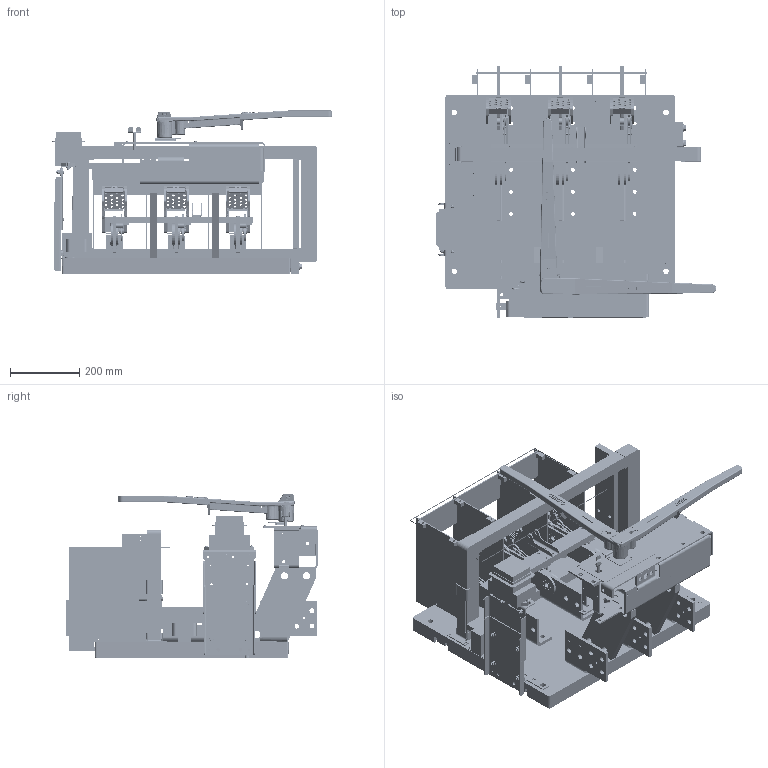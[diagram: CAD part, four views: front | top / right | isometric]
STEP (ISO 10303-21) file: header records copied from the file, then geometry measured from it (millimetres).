
FILE_DESCRIPTION(/* description */ (''),/* implementation_level */ '2;1');
FILE_NAME(/* name */ 'H:\switches\3d-templates\catalog-switches-iges-files\CATALOG-VL369G5.stp',/* time_stamp */ '2022-03-23T14:12:55-05:00',/* author */ ('MKingston'),/* organization */ (''),/* preprocessor_version */ 'ST-DEVELOPER v18.1',/* originating_system */ 'Autodesk Inventor 2022',/* authorisation */ '');
FILE_SCHEMA (('AUTOMOTIVE_DESIGN { 1 0 10303 214 3 1 1 }'));
Products named in the file (66): vl369; 277; 668-D; 668-C; 668-E; catalog-56-qj-arcchute-assy; 363-da; 363-da_MIR; 50-QLX; 50-QRX; 56-QJS; 57-QJSB; 57-QJST; catalog-vl369-blade-assy; 67-AL; 67-AR; 67-fc3; 67-gc3; 67-M; 67-j; ANSI/ASME B18.7 - T 0.252 x 17/32; ANSI/ASME B18.7 - T 0.188 x 17/32; 235-b; 230-a; 246-a; 255-z; 67-ZBA; 255-bha; 255-c; 178-c; 675-ba; 675-df; gfi-ring-assembly; GFS10X24; 277-ma; gfr-1-mounting-assembly; 277-L1T; 277-l2; 277-l3; 277-l4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
Assembly tree (129 placements, depth 4):
  vl369
    277
    668-D  x3
    668-C  x3
    668-E  x3
    catalog-56-qj-arcchute-assy  x3
      363-da
      363-da_MIR
      50-QLX
      50-QRX
      56-QJS
      57-QJSB
      57-QJST
    catalog-vl369-blade-assy  x3
      67-AL
      67-AR
      67-fc3
      67-gc3
      67-j
      67-M
      ANSI/ASME B18.7 - T 0.252 x 17/32
      ANSI/ASME B18.7 - T 0.188 x 17/32
    235-b
    230-a
    255-bha  x4
    246-a  x2
    255-z
    67-ZBA  x3
    255-c
    178-c  x8
    675-ba
    675-df
    gfi-ring-assembly
      GFS10X24
      277-ma
    gfr-1-mounting-assembly
      277-L1T
      277-l2
      277-l3
      277-l4
      gfr-1
      Bolted Connection
        ANSI B18.22.1 - No. 10 - Type A  x4
        ASME B18.21.1 - No. 10. Carbon Steel, ETLWTB(1)  x4
        ANSI B18.6.3 - 10 - 32 x 7/8 SR HMS  x2
        ANSI B18.2.2 - 10 - 32, HMSNI  x2
      Bolted Connection_1
        ANSI B18.5 - 1/4-20 UNC - 0.75, RHBI  x6
        ASTM F436 - 1/4, CW  x6
        ASME B18.21.1 - 1/4. Carbon Steel, HITLWTB(1)  x6
        ANSI B18.2.2 - 1/4 - 20, HNI  x6
    transformer
    800-bck2
    800-fck-1
    221-kpa
    452
    481-a
    178-b  x8
    672-ha
    277-BP
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Bounding box: 807.14 x 725.27 x 469.37 mm (x, y, z)
Volume: 19896929 mm3; surface area: 4434448 mm2
Topology: 167 solids, 168 shells, 6113 faces, 15714 edges, 10252 vertices
Faces by surface type: plane 3112, cylinder 1839, cone 589, bspline 453, torus 100, sphere 20
Full cylindrical faces by diameter (mm): 1.702 x8, 3.175 x4, 3.302 x2, 3.581 x2, 3.683 x8, 3.759 x12, 3.962 x11, 4.089 x4, 4.305 x42, 4.366 x2, 4.496 x24, 4.653 x4, 4.762 x4, 4.775 x11, 4.801 x8, 4.826 x2, 4.902 x14, 4.915 x24, 4.953 x4, 4.978 x9, 5.462 x4, 5.537 x3, 5.556 x5, 5.563 x4, 5.791 x6, 6.35 x50, 6.401 x9, 6.528 x71, 7.137 x8, 7.144 x14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
Entity records: 118227 total; most frequent: CARTESIAN_POINT 30150, ORIENTED_EDGE 17650, DIRECTION 17521, EDGE_CURVE 8833, AXIS2_PLACEMENT_3D 6050, VERTEX_POINT 5741, LINE 5421, VECTOR 5421
